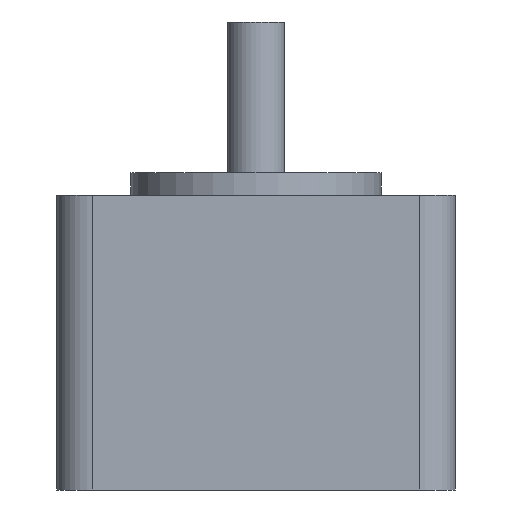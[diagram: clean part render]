
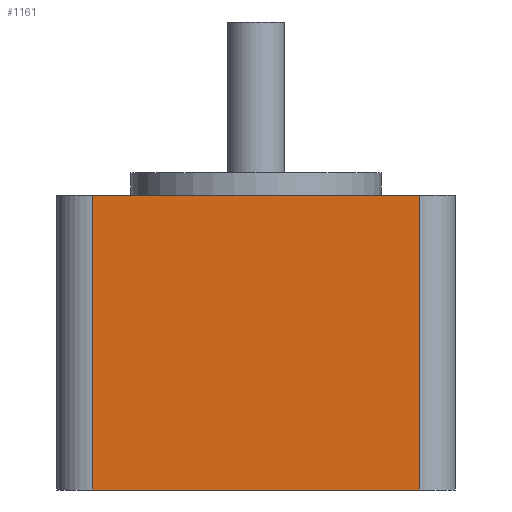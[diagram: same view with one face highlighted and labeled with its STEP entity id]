
A CAD part, front view. The second image highlights one B-rep face of the part: STEP entity #1161.
In plain terms, the highlighted planar face has unit normal (0, -1, 0).
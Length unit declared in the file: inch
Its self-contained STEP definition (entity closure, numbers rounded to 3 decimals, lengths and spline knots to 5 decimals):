
#776=CARTESIAN_POINT('',(-0.565,-0.69,1.02));
#777=VERTEX_POINT('',#776);
#785=CARTESIAN_POINT('',(0.565,-0.69,1.02));
#786=VERTEX_POINT('',#785);
#787=CARTESIAN_POINT('',(-0.565,-0.69,1.02));
#788=DIRECTION('',(1.0,0.0,0.0));
#789=VECTOR('',#788,1.13);
#790=LINE('',#787,#789);
#791=EDGE_CURVE('',#777,#786,#790,.T.);
#1118=CARTESIAN_POINT('',(-0.565,-0.69,0.0));
#1119=VERTEX_POINT('',#1118);
#1127=CARTESIAN_POINT('',(-0.565,-0.69,1.02));
#1128=DIRECTION('',(0.0,0.0,-1.0));
#1129=VECTOR('',#1128,1.02);
#1130=LINE('',#1127,#1129);
#1131=EDGE_CURVE('',#777,#1119,#1130,.T.);
#1138=CARTESIAN_POINT('',(-0.565,-0.69,1.02));
#1139=DIRECTION('',(0.0,-1.0,0.0));
#1140=DIRECTION('',(0.0,0.0,-1.0));
#1141=AXIS2_PLACEMENT_3D('',#1138,#1139,#1140);
#1142=PLANE('',#1141);
#1143=CARTESIAN_POINT('',(0.565,-0.69,0.0));
#1144=VERTEX_POINT('',#1143);
#1145=CARTESIAN_POINT('',(-0.565,-0.69,0.0));
#1146=DIRECTION('',(1.0,0.0,0.0));
#1147=VECTOR('',#1146,1.13);
#1148=LINE('',#1145,#1147);
#1149=EDGE_CURVE('',#1119,#1144,#1148,.T.);
#1150=ORIENTED_EDGE('',*,*,#1149,.T.);
#1151=CARTESIAN_POINT('',(0.565,-0.69,1.02));
#1152=DIRECTION('',(0.0,0.0,-1.0));
#1153=VECTOR('',#1152,1.02);
#1154=LINE('',#1151,#1153);
#1155=EDGE_CURVE('',#786,#1144,#1154,.T.);
#1156=ORIENTED_EDGE('',*,*,#1155,.F.);
#1157=ORIENTED_EDGE('',*,*,#791,.F.);
#1158=ORIENTED_EDGE('',*,*,#1131,.T.);
#1159=EDGE_LOOP('',(#1150,#1156,#1157,#1158));
#1160=FACE_OUTER_BOUND('',#1159,.T.);
#1161=ADVANCED_FACE('',(#1160),#1142,.T.);
